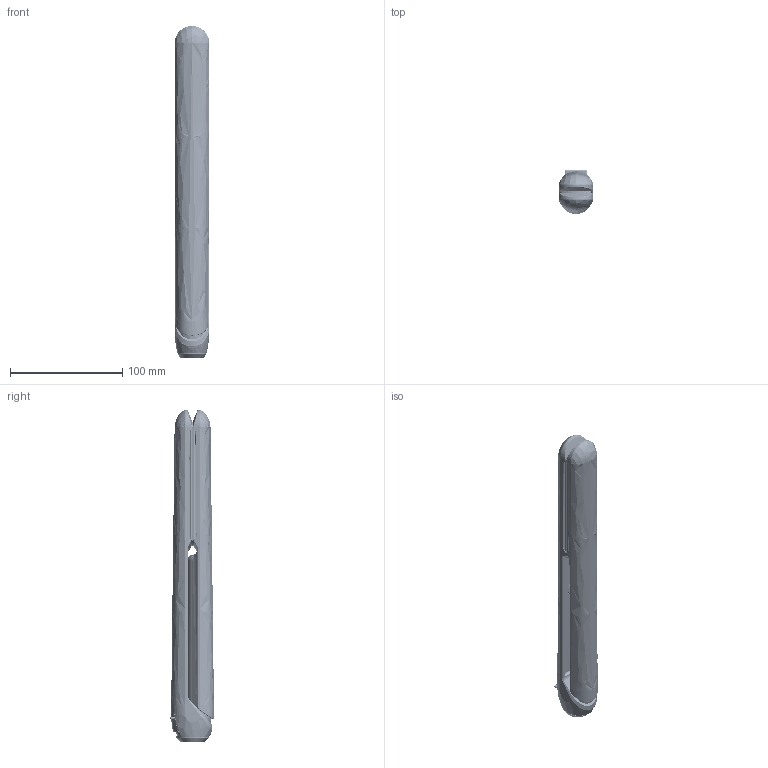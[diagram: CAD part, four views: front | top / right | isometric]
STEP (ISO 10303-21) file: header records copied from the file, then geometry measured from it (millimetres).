
FILE_DESCRIPTION (( 'STEP AP203' ), '1' );
FILE_NAME ('ST_F2d6B_20190129.STEP', '2018-01-29T08:00:00', ( '' ), ( '' ), 'SwSTEP 2.0', 'SolidWorks 2013', '' );
FILE_SCHEMA (( 'CONFIG_CONTROL_DESIGN' ));
Length unit declared in the file: millimetre
Products named in the file (1): ST_F2d6B_20190129
Bounding box: 30.97 x 39 x 295.49 mm (x, y, z)
Volume: 151718.8 mm3; surface area: 165152.2 mm2
Topology: 114 solids, 114 shells, 8603 faces, 24432 edges, 16092 vertices
Faces by surface type: cylinder 5688, plane 2258, bspline 540, torus 74, cone 38, sphere 5
Entity records: 356993 total; most frequent: CARTESIAN_POINT 119522, DIRECTION 49357, ORIENTED_EDGE 48828, EDGE_CURVE 24414, AXIS2_PLACEMENT_3D 19249, VERTEX_POINT 16091, EDGE_LOOP 13655, CIRCLE 11185
